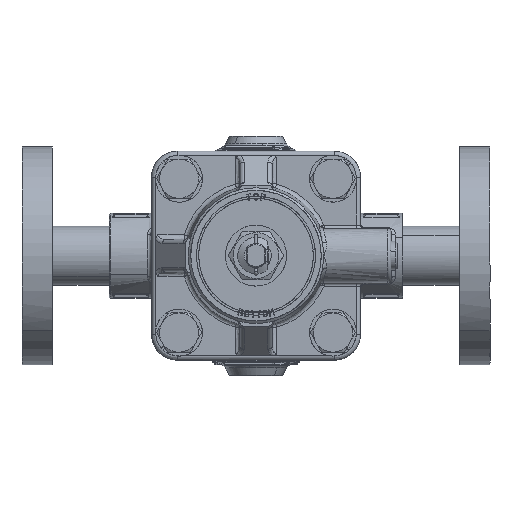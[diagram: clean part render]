
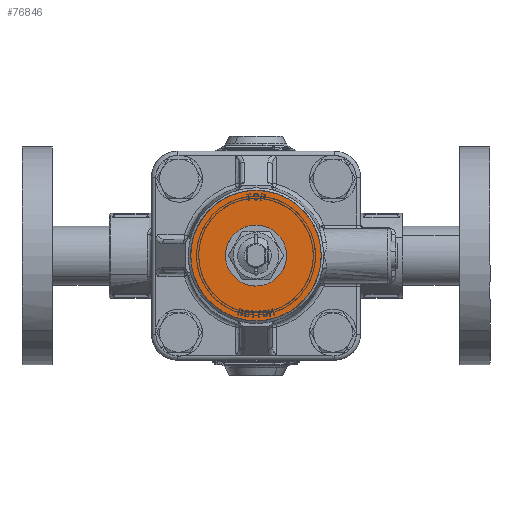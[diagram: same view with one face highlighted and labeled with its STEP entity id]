
A CAD part, top view. The second image highlights one B-rep face of the part: STEP entity #76846.
In plain terms, the highlighted free-form (B-spline) face has degree [1, 1] with [2, 2] control points.
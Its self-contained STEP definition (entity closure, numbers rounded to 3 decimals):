
#76544=CARTESIAN_POINT('',(-20.268,22.118,28.2));
#76545=VERTEX_POINT('',#76544);
#76551=CARTESIAN_POINT('',(0.,30.,28.2));
#76552=VERTEX_POINT('',#76551);
#76553=CARTESIAN_POINT('',(0.,30.,28.2));
#76554=CARTESIAN_POINT('',(-1.739,30.,28.2));
#76555=CARTESIAN_POINT('',(-5.679,29.657,28.2));
#76556=CARTESIAN_POINT('',(-10.716,28.187,28.2));
#76557=CARTESIAN_POINT('',(-15.821,25.671,28.2));
#76558=CARTESIAN_POINT('',(-18.644,23.606,28.2));
#76559=CARTESIAN_POINT('',(-20.268,22.118,28.2));
#76560=B_SPLINE_CURVE_WITH_KNOTS('',3,(#76553,#76554,#76555,#76556,#76557,#76558,#76559),.UNSPECIFIED.,.F.,.U.,(4,1,1,1,4),(0.,5.216,11.822,15.647,22.253),.UNSPECIFIED.);
#76561=EDGE_CURVE('',#76552,#76545,#76560,.T.);
#76563=CARTESIAN_POINT('',(30.,0.,28.2));
#76564=VERTEX_POINT('',#76563);
#76565=CARTESIAN_POINT('',(30.,0.,28.2));
#76566=CARTESIAN_POINT('',(30.001,2.7,28.2));
#76567=CARTESIAN_POINT('',(29.316,7.731,28.2));
#76568=CARTESIAN_POINT('',(26.847,13.796,28.2));
#76569=CARTESIAN_POINT('',(23.291,19.263,28.2));
#76570=CARTESIAN_POINT('',(19.,23.554,28.2));
#76571=CARTESIAN_POINT('',(13.042,27.275,28.2));
#76572=CARTESIAN_POINT('',(6.872,29.483,28.2));
#76573=CARTESIAN_POINT('',(2.209,30.,28.2));
#76574=CARTESIAN_POINT('',(0.,30.,28.2));
#76575=B_SPLINE_CURVE_WITH_KNOTS('',3,(#76565,#76566,#76567,#76568,#76569,#76570,#76571,#76572,#76573,#76574),.UNSPECIFIED.,.F.,.U.,(4,1,1,1,1,1,1,4),(0.,8.099,15.095,19.513,27.612,33.134,40.497,47.124),.UNSPECIFIED.);
#76576=EDGE_CURVE('',#76564,#76552,#76575,.T.);
#76578=CARTESIAN_POINT('',(20.268,-22.118,28.2));
#76579=VERTEX_POINT('',#76578);
#76580=CARTESIAN_POINT('',(20.268,-22.118,28.2));
#76581=CARTESIAN_POINT('',(24.919,-17.856,28.2));
#76582=CARTESIAN_POINT('',(27.459,-12.082,28.2));
#76583=CARTESIAN_POINT('',(30.,-6.308,28.2));
#76584=CARTESIAN_POINT('',(30.,0.,28.2));
#76592=(BOUNDED_CURVE()B_SPLINE_CURVE(2,(#76580,#76581,#76582,#76583,#76584),.UNSPECIFIED.,.F.,.U.)B_SPLINE_CURVE_WITH_KNOTS((3,2,3),(0.,0.5,1.),.UNSPECIFIED.)CURVE()GEOMETRIC_REPRESENTATION_ITEM()RATIONAL_B_SPLINE_CURVE((1.,0.979,1.,0.979,1.))REPRESENTATION_ITEM(''));
#76593=EDGE_CURVE('',#76579,#76564,#76592,.T.);
#76693=CARTESIAN_POINT('',(0.,-30.,28.2));
#76694=VERTEX_POINT('',#76693);
#76695=CARTESIAN_POINT('',(0.,-30.,28.2));
#76696=CARTESIAN_POINT('',(3.245,-30.002,28.2));
#76697=CARTESIAN_POINT('',(8.692,-29.107,28.2));
#76698=CARTESIAN_POINT('',(15.46,-25.964,28.2));
#76699=CARTESIAN_POINT('',(18.815,-23.45,28.2));
#76700=CARTESIAN_POINT('',(20.268,-22.118,28.2));
#76701=B_SPLINE_CURVE_WITH_KNOTS('',3,(#76695,#76696,#76697,#76698,#76699,#76700),.UNSPECIFIED.,.F.,.U.,(4,1,1,4),(0.,9.736,16.342,22.253),.UNSPECIFIED.);
#76702=EDGE_CURVE('',#76694,#76579,#76701,.T.);
#76704=CARTESIAN_POINT('',(-30.,0.,28.2));
#76705=VERTEX_POINT('',#76704);
#76706=CARTESIAN_POINT('',(-30.,0.,28.2));
#76707=CARTESIAN_POINT('',(-30.,-12.426,28.2));
#76708=CARTESIAN_POINT('',(-21.213,-21.213,28.2));
#76709=CARTESIAN_POINT('',(-12.426,-30.,28.2));
#76710=CARTESIAN_POINT('',(0.,-30.,28.2));
#76718=(BOUNDED_CURVE()B_SPLINE_CURVE(2,(#76706,#76707,#76708,#76709,#76710),.UNSPECIFIED.,.F.,.U.)B_SPLINE_CURVE_WITH_KNOTS((3,2,3),(0.,0.5,1.),.UNSPECIFIED.)CURVE()GEOMETRIC_REPRESENTATION_ITEM()RATIONAL_B_SPLINE_CURVE((1.,0.924,1.,0.924,1.))REPRESENTATION_ITEM(''));
#76719=EDGE_CURVE('',#76705,#76694,#76718,.T.);
#76721=CARTESIAN_POINT('',(-20.268,22.118,28.2));
#76722=CARTESIAN_POINT('',(-21.7,20.806,28.2));
#76723=CARTESIAN_POINT('',(-24.222,17.998,28.2));
#76724=CARTESIAN_POINT('',(-27.522,12.545,28.2));
#76725=CARTESIAN_POINT('',(-29.559,6.477,28.2));
#76726=CARTESIAN_POINT('',(-30.,1.943,28.2));
#76727=CARTESIAN_POINT('',(-30.,0.,28.2));
#76728=B_SPLINE_CURVE_WITH_KNOTS('',3,(#76721,#76722,#76723,#76724,#76725,#76726,#76727),.UNSPECIFIED.,.F.,.U.,(4,1,1,1,4),(0.,5.829,11.27,19.042,24.871),.UNSPECIFIED.);
#76729=EDGE_CURVE('',#76545,#76705,#76728,.T.);
#76791=CARTESIAN_POINT('',(32.997,-32.997,28.2));
#76792=CARTESIAN_POINT('',(-32.997,-32.997,28.2));
#76793=CARTESIAN_POINT('',(32.997,32.997,28.2));
#76794=CARTESIAN_POINT('',(-32.997,32.997,28.2));
#76795=B_SPLINE_SURFACE_WITH_KNOTS('',1,1,((#76791,#76793),(#76792,#76794)),.UNSPECIFIED.,.F.,.F.,.U.,(2,2),(2,2),(0.,65.994),(0.,65.994),.UNSPECIFIED.);
#76796=ORIENTED_EDGE('',*,*,#76719,.T.);
#76797=ORIENTED_EDGE('',*,*,#76702,.T.);
#76798=ORIENTED_EDGE('',*,*,#76593,.T.);
#76799=ORIENTED_EDGE('',*,*,#76576,.T.);
#76800=ORIENTED_EDGE('',*,*,#76561,.T.);
#76801=ORIENTED_EDGE('',*,*,#76729,.T.);
#76802=EDGE_LOOP('',(#76796,#76797,#76798,#76799,#76800,#76801));
#76803=FACE_OUTER_BOUND('',#76802,.T.);
#76804=CARTESIAN_POINT('',(-4.989,-5.6,28.2));
#76805=VERTEX_POINT('',#76804);
#76806=CARTESIAN_POINT('',(4.989,-5.6,28.2));
#76807=VERTEX_POINT('',#76806);
#76808=CARTESIAN_POINT('',(-4.989,-5.6,28.2));
#76809=CARTESIAN_POINT('',(4.989,-5.6,28.2));
#76810=QUASI_UNIFORM_CURVE('',1,(#76808,#76809),.UNSPECIFIED.,.F.,.U.);
#76811=EDGE_CURVE('',#76805,#76807,#76810,.T.);
#76812=ORIENTED_EDGE('',*,*,#76811,.F.);
#76813=CARTESIAN_POINT('',(0.,7.5,28.2));
#76814=VERTEX_POINT('',#76813);
#76815=CARTESIAN_POINT('',(0.,7.5,28.2));
#76816=CARTESIAN_POINT('',(-5.169,7.5,28.2));
#76817=CARTESIAN_POINT('',(-7.009,2.669,28.2));
#76818=CARTESIAN_POINT('',(-8.849,-2.161,28.2));
#76819=CARTESIAN_POINT('',(-4.989,-5.6,28.2));
#76827=(BOUNDED_CURVE()B_SPLINE_CURVE(2,(#76815,#76816,#76817,#76818,#76819),.UNSPECIFIED.,.F.,.U.)B_SPLINE_CURVE_WITH_KNOTS((3,2,3),(0.,0.5,1.),.UNSPECIFIED.)CURVE()GEOMETRIC_REPRESENTATION_ITEM()RATIONAL_B_SPLINE_CURVE((1.,0.823,1.,0.823,1.))REPRESENTATION_ITEM(''));
#76828=EDGE_CURVE('',#76814,#76805,#76827,.T.);
#76829=ORIENTED_EDGE('',*,*,#76828,.F.);
#76830=CARTESIAN_POINT('',(4.989,-5.6,28.2));
#76831=CARTESIAN_POINT('',(5.835,-4.848,28.2));
#76832=CARTESIAN_POINT('',(6.84,-3.427,28.2));
#76833=CARTESIAN_POINT('',(7.489,-1.145,28.2));
#76834=CARTESIAN_POINT('',(7.553,0.852,28.2));
#76835=CARTESIAN_POINT('',(7.009,2.976,28.2));
#76836=CARTESIAN_POINT('',(5.858,4.844,28.2));
#76837=CARTESIAN_POINT('',(4.518,6.056,28.2));
#76838=CARTESIAN_POINT('',(2.639,7.152,28.2));
#76839=CARTESIAN_POINT('',(1.132,7.502,28.2));
#76840=CARTESIAN_POINT('',(0.,7.5,28.2));
#76841=B_SPLINE_CURVE_WITH_KNOTS('',3,(#76830,#76831,#76832,#76833,#76834,#76835,#76836,#76837,#76838,#76839,#76840),.UNSPECIFIED.,.F.,.U.,(4,1,1,1,1,1,1,1,4),(0.,3.395,5.092,7.072,9.335,11.598,13.579,14.71,18.105),.UNSPECIFIED.);
#76842=EDGE_CURVE('',#76807,#76814,#76841,.T.);
#76843=ORIENTED_EDGE('',*,*,#76842,.F.);
#76844=EDGE_LOOP('',(#76812,#76829,#76843));
#76845=FACE_BOUND('',#76844,.T.);
#76846=ADVANCED_FACE('',(#76803,#76845),#76795,.F.);
